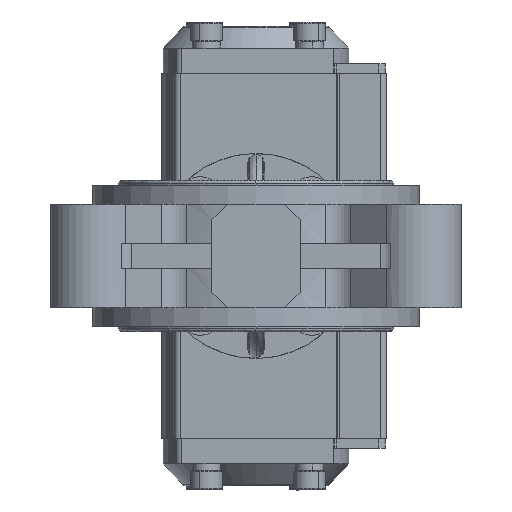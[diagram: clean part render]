
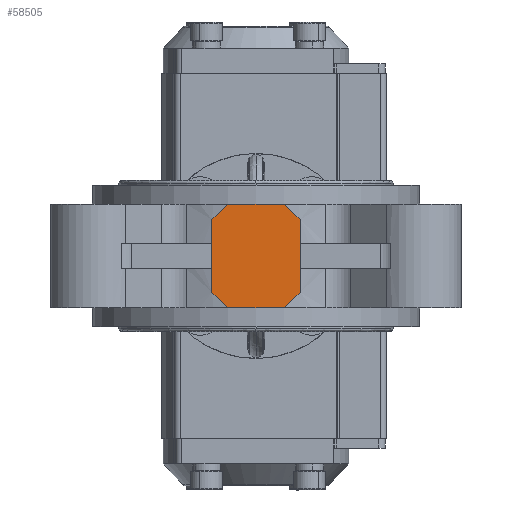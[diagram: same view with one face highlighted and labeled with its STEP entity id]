
A CAD part, front view. The second image highlights one B-rep face of the part: STEP entity #58505.
In plain terms, the highlighted planar face has unit normal (0, -1, 0).
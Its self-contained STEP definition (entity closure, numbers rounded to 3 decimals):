
#798 = LINE ( 'NONE', #67911, #59154 ) ;
#1560 = ORIENTED_EDGE ( 'NONE', *, *, #1835, .F. ) ;
#1572 = VECTOR ( 'NONE', #42397, 1000. ) ;
#1835 = EDGE_CURVE ( 'NONE', #42290, #17719, #14125, .T. ) ;
#2525 = DIRECTION ( 'NONE',  ( 0., 0., 1. ) ) ;
#2615 = CARTESIAN_POINT ( 'NONE',  ( -14., -72., 11.5 ) ) ;
#2742 = EDGE_CURVE ( 'NONE', #58052, #18829, #29303, .T. ) ;
#2782 = CARTESIAN_POINT ( 'NONE',  ( -9., -72., 16.5 ) ) ;
#9429 = VERTEX_POINT ( 'NONE', #52480 ) ;
#11540 = CARTESIAN_POINT ( 'NONE',  ( 0., -72., 0. ) ) ;
#14125 = LINE ( 'NONE', #2615, #43283 ) ;
#14443 = LINE ( 'NONE', #26751, #20774 ) ;
#15627 = EDGE_CURVE ( 'NONE', #18829, #9429, #798, .T. ) ;
#16854 = VECTOR ( 'NONE', #2525, 1000. ) ;
#17133 = ORIENTED_EDGE ( 'NONE', *, *, #2742, .F. ) ;
#17687 = DIRECTION ( 'NONE',  ( 1., 0., 0. ) ) ;
#17719 = VERTEX_POINT ( 'NONE', #2782 ) ;
#17995 = VECTOR ( 'NONE', #60749, 1000. ) ;
#18103 = CARTESIAN_POINT ( 'NONE',  ( 9., -72., 16.5 ) ) ;
#18632 = DIRECTION ( 'NONE',  ( 0., 1., 0. ) ) ;
#18829 = VERTEX_POINT ( 'NONE', #69294 ) ;
#20774 = VECTOR ( 'NONE', #31501, 1000. ) ;
#23503 = EDGE_CURVE ( 'NONE', #9429, #42290, #51408, .T. ) ;
#24208 = PLANE ( 'NONE',  #64304 ) ;
#25011 = CARTESIAN_POINT ( 'NONE',  ( 9., -72., 16.5 ) ) ;
#26636 = ORIENTED_EDGE ( 'NONE', *, *, #42529, .F. ) ;
#26726 = VERTEX_POINT ( 'NONE', #25011 ) ;
#26751 = CARTESIAN_POINT ( 'NONE',  ( 14., -72., 0. ) ) ;
#27131 = ORIENTED_EDGE ( 'NONE', *, *, #77888, .F. ) ;
#27289 = VERTEX_POINT ( 'NONE', #41863 ) ;
#29303 = LINE ( 'NONE', #71817, #17995 ) ;
#30411 = ORIENTED_EDGE ( 'NONE', *, *, #15627, .F. ) ;
#31501 = DIRECTION ( 'NONE',  ( 0., 0., -1. ) ) ;
#31994 = LINE ( 'NONE', #18103, #1572 ) ;
#32302 = VERTEX_POINT ( 'NONE', #35183 ) ;
#35183 = CARTESIAN_POINT ( 'NONE',  ( 14., -72., 11.5 ) ) ;
#35764 = DIRECTION ( 'NONE',  ( 0., 0., 1. ) ) ;
#35927 = CARTESIAN_POINT ( 'NONE',  ( 14., -72., -11.5 ) ) ;
#36620 = ORIENTED_EDGE ( 'NONE', *, *, #47923, .F. ) ;
#38838 = CARTESIAN_POINT ( 'NONE',  ( -14., -72., 11.5 ) ) ;
#41575 = CARTESIAN_POINT ( 'NONE',  ( -14., -72., 16.5 ) ) ;
#41863 = CARTESIAN_POINT ( 'NONE',  ( 14., -72., -11.5 ) ) ;
#42290 = VERTEX_POINT ( 'NONE', #38838 ) ;
#42397 = DIRECTION ( 'NONE',  ( 0.707, 0., -0.707 ) ) ;
#42529 = EDGE_CURVE ( 'NONE', #26726, #32302, #31994, .T. ) ;
#43283 = VECTOR ( 'NONE', #62654, 1000. ) ;
#47923 = EDGE_CURVE ( 'NONE', #17719, #26726, #67383, .T. ) ;
#48917 = EDGE_CURVE ( 'NONE', #32302, #27289, #14443, .T. ) ;
#51026 = EDGE_LOOP ( 'NONE', ( #1560, #56308, #30411, #17133, #27131, #66636, #26636, #36620 ) ) ;
#51408 = LINE ( 'NONE', #75949, #16854 ) ;
#52480 = CARTESIAN_POINT ( 'NONE',  ( -14., -72., -11.5 ) ) ;
#53438 = DIRECTION ( 'NONE',  ( -0.707, 0., -0.707 ) ) ;
#53667 = FACE_OUTER_BOUND ( 'NONE', #51026, .T. ) ;
#55546 = CARTESIAN_POINT ( 'NONE',  ( 9., -72., -16.5 ) ) ;
#56308 = ORIENTED_EDGE ( 'NONE', *, *, #23503, .F. ) ;
#57608 = VECTOR ( 'NONE', #17687, 1000. ) ;
#58052 = VERTEX_POINT ( 'NONE', #55546 ) ;
#58505 = ADVANCED_FACE ( 'NONE', ( #53667 ), #24208, .F. ) ;
#59154 = VECTOR ( 'NONE', #73844, 1000. ) ;
#60749 = DIRECTION ( 'NONE',  ( -1., 0., 0. ) ) ;
#62654 = DIRECTION ( 'NONE',  ( 0.707, 0., 0.707 ) ) ;
#64304 = AXIS2_PLACEMENT_3D ( 'NONE', #11540, #18632, #35764 ) ;
#65732 = LINE ( 'NONE', #35927, #74847 ) ;
#66636 = ORIENTED_EDGE ( 'NONE', *, *, #48917, .F. ) ;
#67383 = LINE ( 'NONE', #41575, #57608 ) ;
#67911 = CARTESIAN_POINT ( 'NONE',  ( -11.5, -72., -14. ) ) ;
#69294 = CARTESIAN_POINT ( 'NONE',  ( -9., -72., -16.5 ) ) ;
#71817 = CARTESIAN_POINT ( 'NONE',  ( 14., -72., -16.5 ) ) ;
#73844 = DIRECTION ( 'NONE',  ( -0.707, 0., 0.707 ) ) ;
#74847 = VECTOR ( 'NONE', #53438, 1000. ) ;
#75949 = CARTESIAN_POINT ( 'NONE',  ( -14., -72., 0. ) ) ;
#77888 = EDGE_CURVE ( 'NONE', #27289, #58052, #65732, .T. ) ;
